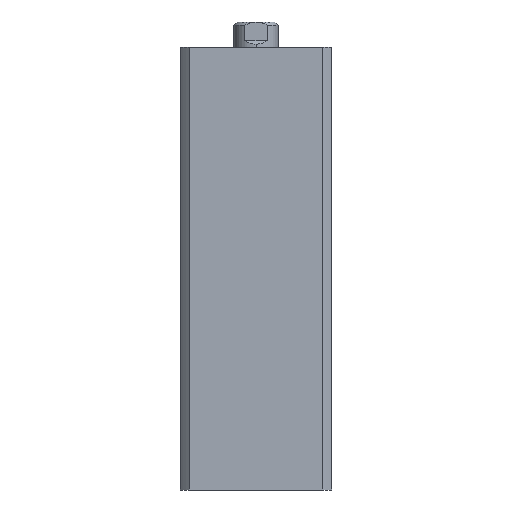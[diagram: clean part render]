
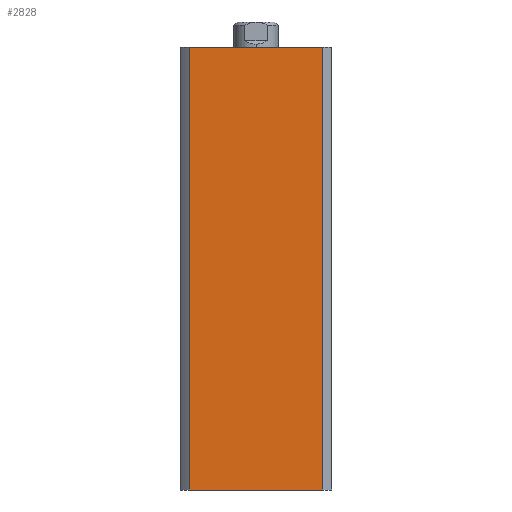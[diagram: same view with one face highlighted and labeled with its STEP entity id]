
A CAD part, left-side view. The second image highlights one B-rep face of the part: STEP entity #2828.
In plain terms, the highlighted planar face has unit normal (-1, 0, 0).
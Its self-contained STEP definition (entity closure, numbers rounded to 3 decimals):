
#116 = ORIENTED_EDGE ( 'NONE', *, *, #2261, .T. ) ;
#117 = ORIENTED_EDGE ( 'NONE', *, *, #2230, .F. ) ;
#118 = ORIENTED_EDGE ( 'NONE', *, *, #2260, .F. ) ;
#119 = ORIENTED_EDGE ( 'NONE', *, *, #2259, .T. ) ;
#563 = LINE ( 'NONE', #749, #565 ) ;
#565 = VECTOR ( 'NONE', #750, 1000. ) ;
#588 = LINE ( 'NONE', #903, #601 ) ;
#597 = LINE ( 'NONE', #897, #599 ) ;
#598 = LINE ( 'NONE', #902, #603 ) ;
#599 = VECTOR ( 'NONE', #898, 1000. ) ;
#601 = VECTOR ( 'NONE', #908, 1000. ) ;
#603 = VECTOR ( 'NONE', #910, 1000. ) ;
#749 = CARTESIAN_POINT ( 'NONE',  ( -24., 0., 140. ) ) ;
#750 = DIRECTION ( 'NONE',  ( 0., -1., 0. ) ) ;
#897 = CARTESIAN_POINT ( 'NONE',  ( -24., 0., 0. ) ) ;
#898 = DIRECTION ( 'NONE',  ( 0., -1., 0. ) ) ;
#902 = CARTESIAN_POINT ( 'NONE',  ( -24., 21.166, 140. ) ) ;
#903 = CARTESIAN_POINT ( 'NONE',  ( -24., -21.166, 140. ) ) ;
#908 = DIRECTION ( 'NONE',  ( 0., 0., -1. ) ) ;
#910 = DIRECTION ( 'NONE',  ( 0., 0., -1. ) ) ;
#1622 = EDGE_LOOP ( 'NONE', ( #119, #118, #117, #116 ) ) ;
#2032 = AXIS2_PLACEMENT_3D ( 'NONE', #4030, #4035, #4036 ) ;
#2230 = EDGE_CURVE ( 'NONE', #4735, #4741, #563, .T. ) ;
#2259 = EDGE_CURVE ( 'NONE', #4844, #4820, #597, .T. ) ;
#2260 = EDGE_CURVE ( 'NONE', #4741, #4820, #588, .T. ) ;
#2261 = EDGE_CURVE ( 'NONE', #4735, #4844, #598, .T. ) ;
#2493 = FACE_OUTER_BOUND ( 'NONE', #1622, .T. ) ;
#2828 = ADVANCED_FACE ( 'NONE', ( #2493 ), #4032, .F. ) ;
#4030 = CARTESIAN_POINT ( 'NONE',  ( -24., 0., 140. ) ) ;
#4032 = PLANE ( 'NONE',  #2032 ) ;
#4035 = DIRECTION ( 'NONE',  ( 1., 0., 0. ) ) ;
#4036 = DIRECTION ( 'NONE',  ( 0., 0., -1. ) ) ;
#4194 = CARTESIAN_POINT ( 'NONE',  ( -24., 21.166, 140. ) ) ;
#4195 = CARTESIAN_POINT ( 'NONE',  ( -24., -21.166, 140. ) ) ;
#4269 = CARTESIAN_POINT ( 'NONE',  ( -24., -21.166, 0. ) ) ;
#4293 = CARTESIAN_POINT ( 'NONE',  ( -24., 21.166, 0. ) ) ;
#4735 = VERTEX_POINT ( 'NONE', #4194 ) ;
#4741 = VERTEX_POINT ( 'NONE', #4195 ) ;
#4820 = VERTEX_POINT ( 'NONE', #4269 ) ;
#4844 = VERTEX_POINT ( 'NONE', #4293 ) ;
